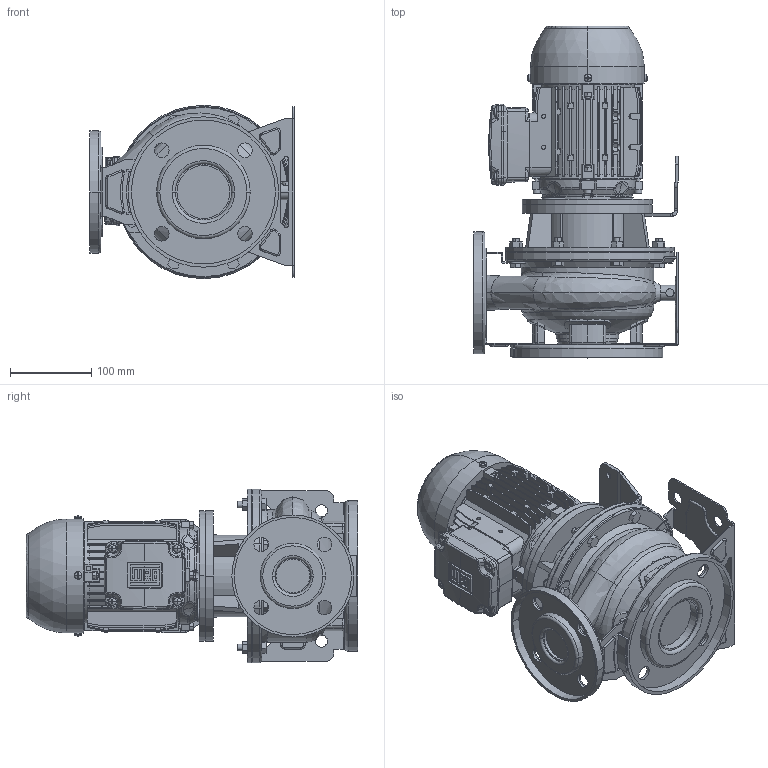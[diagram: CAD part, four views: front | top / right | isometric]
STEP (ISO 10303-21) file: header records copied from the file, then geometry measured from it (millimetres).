
FILE_DESCRIPTION (( 'STEP AP214' ), '1' );
FILE_NAME ('3LS4 40-125_0.37_(71)_W21.STEP', '2026-10-05T01:16:12', ( '' ), ( '' ), 'SwSTEP 2.0', 'SolidWorks 2024', '' );
FILE_SCHEMA (( 'AUTOMOTIVE_DESIGN' ));
Length unit declared in the file: inch
Products named in the file (3): 71 ALIE3_W21_B5; 3SF4_40-125_0_37; 3LS4 40-125_0.37_(71)_W21
Assembly tree (2 placements, depth 2):
  3LS4 40-125_0.37_(71)_W21
    3SF4_40-125_0_37
    71 ALIE3_W21_B5
Bounding box: 252 x 408 x 212.96 mm (x, y, z)
Volume: 6189057.9 mm3; surface area: 859384.2 mm2
Topology: 12 solids, 18 shells, 2747 faces, 7284 edges, 4732 vertices
Faces by surface type: plane 1675, cylinder 640, bspline 148, torus 119, cone 115, sphere 50
Entity records: 118455 total; most frequent: CARTESIAN_POINT 51229, ORIENTED_EDGE 14536, DIRECTION 13167, EDGE_CURVE 7268, VERTEX_POINT 4728, VECTOR 4591, LINE 4591, AXIS2_PLACEMENT_3D 4288
